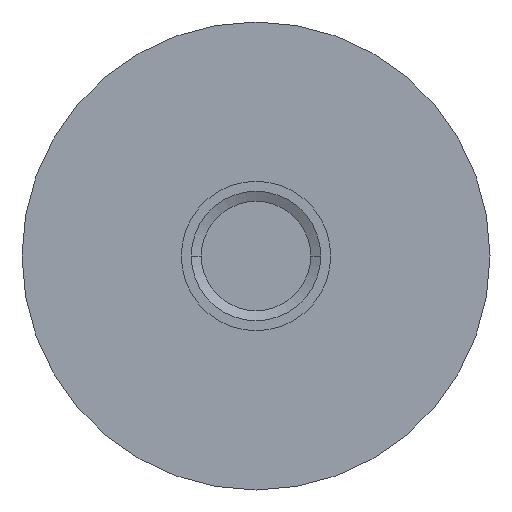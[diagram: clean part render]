
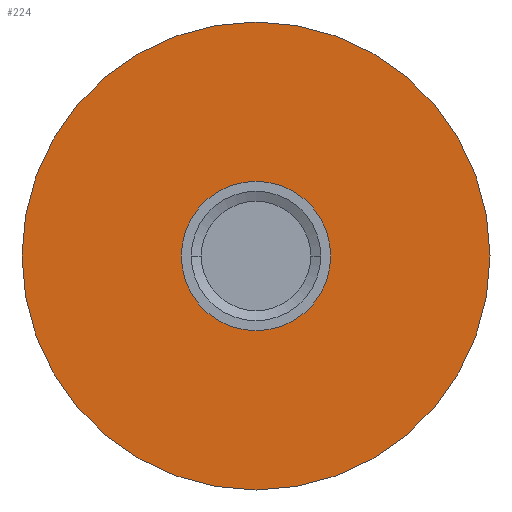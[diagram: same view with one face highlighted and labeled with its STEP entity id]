
A CAD part, left-side view. The second image highlights one B-rep face of the part: STEP entity #224.
In plain terms, the highlighted planar face has unit normal (-1, 0, 0) as drawn and (0, 0, -1) by its records, which use the part's own axes.
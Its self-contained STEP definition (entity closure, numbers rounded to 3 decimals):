
#1=CARTESIAN_POINT('',(0.,0.,0.));
#2=DIRECTION('',(0.,0.,1.));
#3=DIRECTION('',(1.,0.,0.));
#4=AXIS2_PLACEMENT_3D('',#1,#2,#3);
#6=CARTESIAN_POINT('',(0.,0.,0.));
#7=DIRECTION('',(0.,0.,1.));
#8=DIRECTION('',(-1.,0.,0.));
#9=AXIS2_PLACEMENT_3D('',#6,#7,#8);
#11=CARTESIAN_POINT('',(0.,0.,0.));
#12=DIRECTION('',(0.,0.,-1.));
#13=DIRECTION('',(1.,0.,0.));
#14=AXIS2_PLACEMENT_3D('',#11,#12,#13);
#16=CARTESIAN_POINT('',(0.,0.,0.));
#17=DIRECTION('',(0.,0.,-1.));
#18=DIRECTION('',(-1.,0.,0.));
#19=AXIS2_PLACEMENT_3D('',#16,#17,#18);
#159=CARTESIAN_POINT('',(23.5,0.,0.));
#160=CARTESIAN_POINT('',(-23.5,0.,0.));
#161=VERTEX_POINT('',#159);
#162=VERTEX_POINT('',#160);
#167=CARTESIAN_POINT('',(7.5,0.,0.));
#168=CARTESIAN_POINT('',(-7.5,0.,0.));
#169=VERTEX_POINT('',#167);
#170=VERTEX_POINT('',#168);
#207=CARTESIAN_POINT('',(0.,0.,0.));
#208=DIRECTION('',(0.,0.,1.));
#209=DIRECTION('',(1.,0.,0.));
#210=AXIS2_PLACEMENT_3D('',#207,#208,#209);
#211=PLANE('',#210);
#213=ORIENTED_EDGE('',*,*,#212,.T.);
#215=ORIENTED_EDGE('',*,*,#214,.T.);
#216=EDGE_LOOP('',(#213,#215));
#217=FACE_OUTER_BOUND('',#216,.F.);
#219=ORIENTED_EDGE('',*,*,#218,.T.);
#221=ORIENTED_EDGE('',*,*,#220,.T.);
#222=EDGE_LOOP('',(#219,#221));
#223=FACE_BOUND('',#222,.F.);
#224=ADVANCED_FACE('',(#217,#223),#211,.F.);
#5=CIRCLE('',#4,23.5);
#10=CIRCLE('',#9,23.5);
#15=CIRCLE('',#14,7.5);
#20=CIRCLE('',#19,7.5);
#212=EDGE_CURVE('',#161,#162,#5,.T.);
#214=EDGE_CURVE('',#162,#161,#10,.T.);
#218=EDGE_CURVE('',#169,#170,#15,.T.);
#220=EDGE_CURVE('',#170,#169,#20,.T.);
